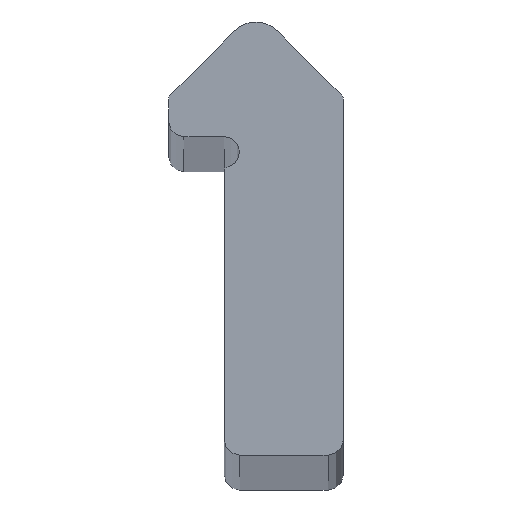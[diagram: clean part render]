
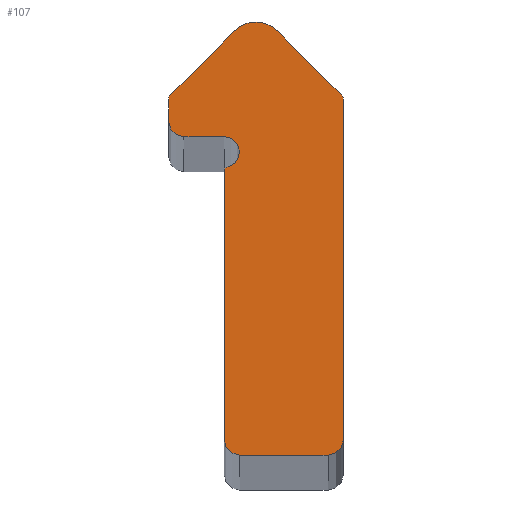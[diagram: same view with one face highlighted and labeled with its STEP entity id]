
A CAD part, top view. The second image highlights one B-rep face of the part: STEP entity #107.
In plain terms, the highlighted planar face has unit normal (0, 0, 1).
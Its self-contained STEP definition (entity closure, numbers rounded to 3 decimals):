
#107=ADVANCED_FACE('',(#139),#140,.F.);
#139=FACE_OUTER_BOUND('',#173,.T.);
#140=PLANE('',#174);
#173=EDGE_LOOP('',(#288,#289,#290,#291,#292,#293,#294,#295,#296,#297,#298,#299,#300,#301,#302));
#174=AXIS2_PLACEMENT_3D('',#303,#304,#305);
#288=ORIENTED_EDGE('',*,*,#363,.F.);
#289=ORIENTED_EDGE('',*,*,#330,.T.);
#290=ORIENTED_EDGE('',*,*,#357,.F.);
#291=ORIENTED_EDGE('',*,*,#354,.F.);
#292=ORIENTED_EDGE('',*,*,#356,.F.);
#293=ORIENTED_EDGE('',*,*,#349,.F.);
#294=ORIENTED_EDGE('',*,*,#362,.F.);
#295=ORIENTED_EDGE('',*,*,#346,.F.);
#296=ORIENTED_EDGE('',*,*,#361,.F.);
#297=ORIENTED_EDGE('',*,*,#364,.F.);
#298=ORIENTED_EDGE('',*,*,#351,.F.);
#299=ORIENTED_EDGE('',*,*,#325,.F.);
#300=ORIENTED_EDGE('',*,*,#322,.F.);
#301=ORIENTED_EDGE('',*,*,#329,.F.);
#302=ORIENTED_EDGE('',*,*,#359,.F.);
#303=CARTESIAN_POINT('',(-2.389,10.274,1000.0));
#304=DIRECTION('',(0.0,0.0,-1.0));
#305=DIRECTION('',(0.0,-1.0,0.0));
#322=EDGE_CURVE('',#368,#370,#371,.T.);
#325=EDGE_CURVE('',#370,#375,#376,.T.);
#329=EDGE_CURVE('',#380,#368,#382,.T.);
#330=EDGE_CURVE('',#383,#384,#385,.T.);
#346=EDGE_CURVE('',#411,#413,#414,.T.);
#349=EDGE_CURVE('',#416,#418,#419,.T.);
#351=EDGE_CURVE('',#375,#421,#422,.T.);
#354=EDGE_CURVE('',#424,#426,#427,.T.);
#356=EDGE_CURVE('',#418,#424,#429,.T.);
#357=EDGE_CURVE('',#426,#384,#430,.T.);
#359=EDGE_CURVE('',#431,#380,#433,.T.);
#361=EDGE_CURVE('',#434,#411,#436,.T.);
#362=EDGE_CURVE('',#413,#416,#437,.T.);
#363=EDGE_CURVE('',#383,#431,#438,.T.);
#364=EDGE_CURVE('',#421,#434,#439,.T.);
#368=VERTEX_POINT('',#443);
#370=VERTEX_POINT('',#446);
#371=CIRCLE('',#447,0.762);
#375=VERTEX_POINT('',#453);
#376=LINE('',#454,#455);
#380=VERTEX_POINT('',#461);
#382=LINE('',#464,#465);
#383=VERTEX_POINT('',#466);
#384=VERTEX_POINT('',#467);
#385=CIRCLE('',#468,1.52);
#411=VERTEX_POINT('',#501);
#413=VERTEX_POINT('',#504);
#414=CIRCLE('',#505,0.762);
#416=VERTEX_POINT('',#508);
#418=VERTEX_POINT('',#511);
#419=CIRCLE('',#512,0.762);
#421=VERTEX_POINT('',#515);
#422=CIRCLE('',#516,0.762);
#424=VERTEX_POINT('',#519);
#426=VERTEX_POINT('',#522);
#427=CIRCLE('',#523,0.381);
#429=LINE('',#526,#527);
#430=LINE('',#528,#529);
#431=VERTEX_POINT('',#530);
#433=CIRCLE('',#533,0.381);
#434=VERTEX_POINT('',#534);
#436=CIRCLE('',#537,0.254);
#437=LINE('',#538,#539);
#438=LINE('',#540,#541);
#439=LINE('',#542,#543);
#443=CARTESIAN_POINT('',(5.94,-6.686,1000.0));
#446=CARTESIAN_POINT('',(5.178,-7.448,1000.0));
#447=AXIS2_PLACEMENT_3D('',#548,#549,#550);
#453=CARTESIAN_POINT('',(0.762,-7.448,1000.0));
#454=CARTESIAN_POINT('',(5.178,-7.448,1000.0));
#455=VECTOR('',#553,1.0);
#461=CARTESIAN_POINT('',(5.94,10.264,1000.0));
#464=CARTESIAN_POINT('',(5.94,10.264,1000.0));
#465=VECTOR('',#557,1.0);
#466=CARTESIAN_POINT('',(2.655,13.707,1000.0));
#467=CARTESIAN_POINT('',(0.505,13.707,1000.0));
#468=AXIS2_PLACEMENT_3D('',#558,#559,#560);
#501=CARTESIAN_POINT('',(0.191,6.932,1000.0));
#504=CARTESIAN_POINT('',(0.,8.432,1000.0));
#505=AXIS2_PLACEMENT_3D('',#590,#591,#592);
#508=CARTESIAN_POINT('',(-2.008,8.432,1000.0));
#511=CARTESIAN_POINT('',(-2.77,9.194,1000.0));
#512=AXIS2_PLACEMENT_3D('',#595,#596,#597);
#515=CARTESIAN_POINT('',(0.,-6.686,1000.0));
#516=AXIS2_PLACEMENT_3D('',#599,#600,#601);
#519=CARTESIAN_POINT('',(-2.77,10.274,1000.0));
#522=CARTESIAN_POINT('',(-2.658,10.543,1000.0));
#523=AXIS2_PLACEMENT_3D('',#604,#605,#606);
#526=CARTESIAN_POINT('',(-2.77,9.194,1000.0));
#527=VECTOR('',#608,1.0);
#528=CARTESIAN_POINT('',(-2.658,10.543,1000.0));
#529=VECTOR('',#609,1.0);
#530=CARTESIAN_POINT('',(5.828,10.533,1000.0));
#533=AXIS2_PLACEMENT_3D('',#611,#612,#613);
#534=CARTESIAN_POINT('',(0.,6.686,1000.0));
#537=AXIS2_PLACEMENT_3D('',#615,#616,#617);
#538=CARTESIAN_POINT('',(0.,8.432,1000.0));
#539=VECTOR('',#618,1.0);
#540=CARTESIAN_POINT('',(1.58,14.782,1000.0));
#541=VECTOR('',#619,1.0);
#542=CARTESIAN_POINT('',(0.,-6.686,1000.0));
#543=VECTOR('',#620,1.0);
#548=CARTESIAN_POINT('',(5.178,-6.686,1000.0));
#549=DIRECTION('',(0.0,0.0,-1.0));
#550=DIRECTION('',(1.0,0.,0.0));
#553=DIRECTION('',(-1.0,0.,0.0));
#557=DIRECTION('',(0.0,-1.0,0.0));
#558=CARTESIAN_POINT('',(1.58,12.632,1000.0));
#559=DIRECTION('',(0.0,0.0,1.0));
#560=DIRECTION('',(-1.0,0.0,0.0));
#590=CARTESIAN_POINT('',(0.,7.67,1000.0));
#591=DIRECTION('',(0.0,-0.0,1.0));
#592=DIRECTION('',(1.0,0.,0.0));
#595=CARTESIAN_POINT('',(-2.008,9.194,1000.0));
#596=DIRECTION('',(0.0,0.0,-1.0));
#597=DIRECTION('',(1.0,0.,0.0));
#599=CARTESIAN_POINT('',(0.762,-6.686,1000.0));
#600=DIRECTION('',(0.0,0.0,-1.0));
#601=DIRECTION('',(1.0,0.,0.0));
#604=CARTESIAN_POINT('',(-2.389,10.274,1000.0));
#605=DIRECTION('',(0.0,0.0,-1.0));
#606=DIRECTION('',(1.0,0.,0.0));
#608=DIRECTION('',(0.,1.0,0.0));
#609=DIRECTION('',(0.707,0.707,0.0));
#611=CARTESIAN_POINT('',(5.559,10.264,1000.0));
#612=DIRECTION('',(0.0,0.0,-1.0));
#613=DIRECTION('',(1.0,0.,0.0));
#615=CARTESIAN_POINT('',(0.254,6.686,1000.0));
#616=DIRECTION('',(0.0,0.0,-1.0));
#617=DIRECTION('',(1.0,0.,0.0));
#618=DIRECTION('',(-1.0,0.0,0.0));
#619=DIRECTION('',(0.707,-0.707,0.0));
#620=DIRECTION('',(0.0,1.0,0.0));
